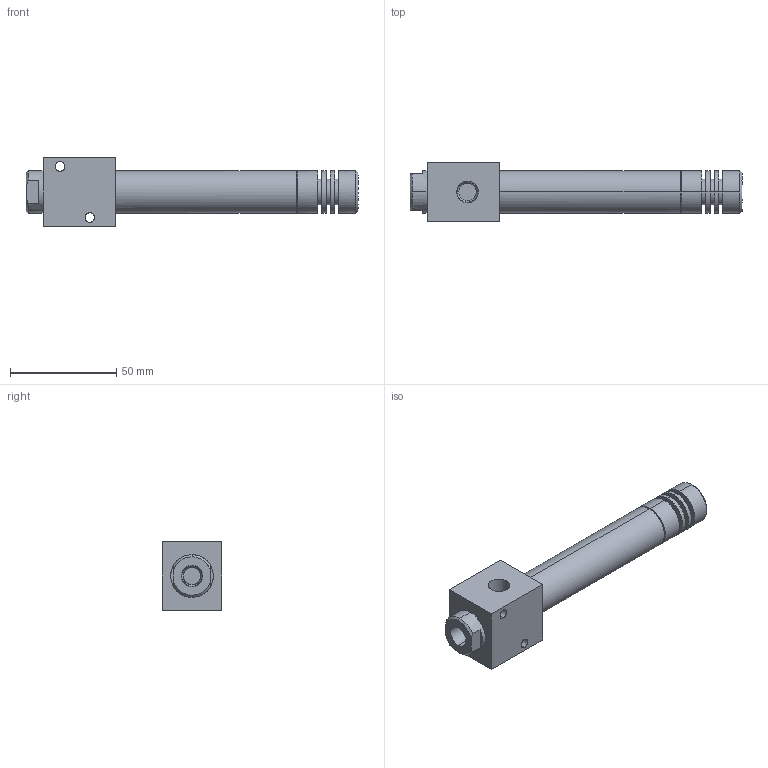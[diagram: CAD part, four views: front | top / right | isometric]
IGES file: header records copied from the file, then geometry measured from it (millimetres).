
Global section: file name: E:\UnigraphicsGraphicData\MISUMI_PRESS-PARTS\IGES\3d_pajc150_04934_r00.igs; native system: NX V5.0; preprocessor: UGS NX IGES V5.0; author: MISUMI; date: 20110105.162216; units: millimetre
Bounding box: 156 x 28 x 32 mm (x, y, z)
Surface area: 17527.2 mm2 (no closed solid volume)
Topology: 0 solids, 0 shells, 100 faces, 724 edges, 724 vertices
Faces by surface type: bspline 100
